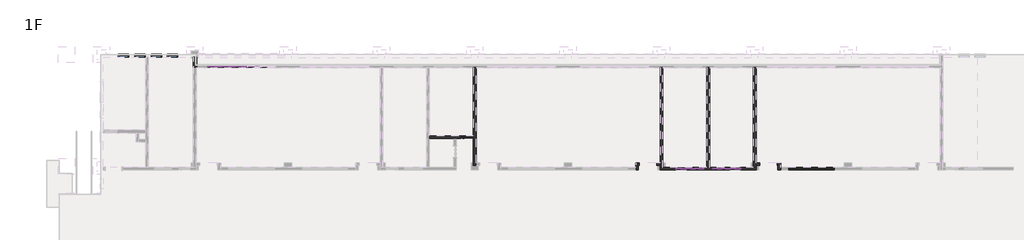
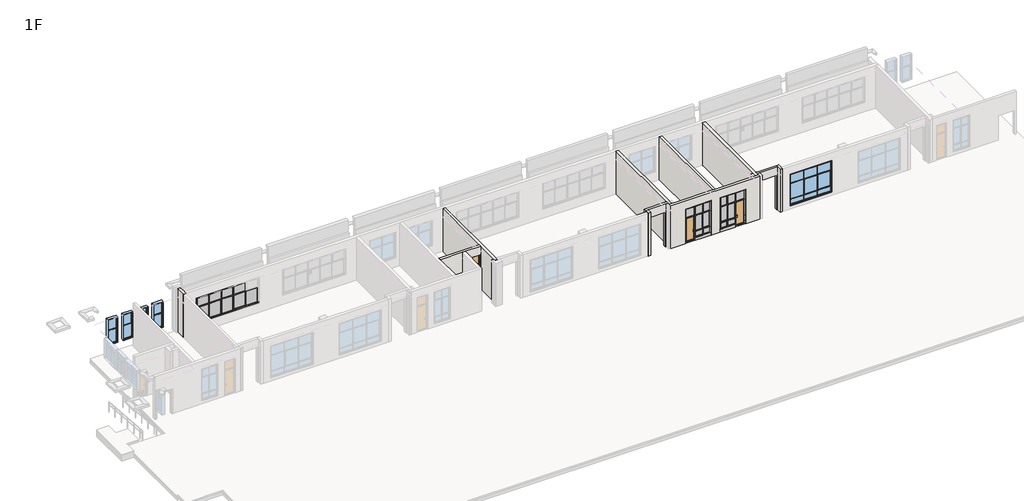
# One storey, part 4 of 16: 67 members, 21 plates, 11 walls, 5 windows, 3 doors.
"""IFC4 building model written with IfcOpenShell, lengths in millimetres."""

from ifc_helpers import new_model, si_unit, origin, origin_with_axes, place, context, project, spatial, polyline, outline, extrude, faceted_brep, transform, mapped, element, save
from components import door_98f1c622, door_980b777d, m2_m2_a1934b10, member_bb6b3e5c, member_d4bc27cc, member_3251d295, member_9c26cac3, member_f9d68b3c, member_c7345f5c, member_ef2f5788, member_68d13e3f, member_a211941a, member_adcc9943, member_f478ca5a, member_964d2677, member_b8dbbb25, member_8a69f4a4, member_c89433b5, member_21953a3b, member_4507a15d, member_fbd0fd80, member_b6ae775c, member_7564be38, member_1f4d75dd, member_0b7842ad, member_163d5e45, member_ffafc35e, member_2b011958, member_6c42befd, member_a374fdad, plate_457c613e, plate_cc9028c0, plate_1c3dccf0, plate_5ac164bc, plate_3a849303, plate_0b4a2fd4, plate_bfe47d88, plate_75e73fbb, plate_f4dba16c, plate_1cc4df2b, plate_4fa5932a, plate_00f9c624, lc1_lc1_5b152119, lc5_lc5_9ec79463

model = new_model("IFC4")

# Units and contexts
model_context = context("Model", 3, world=origin())
ifc_project = project(units=[si_unit("LENGTHUNIT", "METRE", prefix="MILLI")], contexts=[model_context])

# Site, building, storey
site = spatial("IfcSite", under=ifc_project)
building = spatial("IfcBuilding", under=site)
storey = spatial("IfcBuildingStorey", under=building, Name="1F", Elevation=0.0)

# Doors
placement = place(None, origin())
door_shape = door_98f1c622(model_context)
element("IfcDoor", 1, ObjectType="门嵌板_单开门2 : 门嵌板_单开门2", at=placement, inside=storey, context=model_context, shape_type="MappedRepresentation", body=[
    mapped(door_shape, transform((52709.9999953, 23399.6954639, 100.0), x_axis=(-1.0, 0.0, 0.0), y_axis=(0.0, -1.0, 0.0), z_axis=(0.0, 0.0, 1.0))),
])
door_2_shape = door_980b777d(model_context)
element("IfcDoor", 2, ObjectType="门嵌板_单开门2 : 门嵌板_单开门2", at=placement, inside=storey, context=model_context, shape_type="MappedRepresentation", body=[
    mapped(door_2_shape, transform((57309.9999959, 23399.6954639, 100.0), x_axis=(1.0, 0.0, 0.0), y_axis=(0.0, 1.0, 0.0), z_axis=(0.0, 0.0, 1.0))),
])
m2_m2_shape = m2_m2_a1934b10(model_context)
element("IfcDoor", 3, ObjectType="M2 : M2", at=placement, inside=storey, context=model_context, shape_type="MappedRepresentation", body=[
    mapped(m2_m2_shape, transform((34309.9999978, 26099.6954638, 0.0), x_axis=(-1.0, 0.0, 0.0), y_axis=(0.0, -1.0, 0.0), z_axis=(0.0, 0.0, 1.0))),
])

# Members
member_shape = member_bb6b3e5c(model_context)
element("IfcMember", 4, ObjectType="矩形竖梃 : 教学楼 – 矩形竖梃 – 100x150mm", at=placement, inside=storey, context=model_context, shape_type="MappedRepresentation", body=[
    mapped(member_shape, transform((54609.9999957, 23399.6954639, 3400.0), x_axis=(0.0, 0.0, 1.0), y_axis=(0.0, -1.0, 0.0), z_axis=(1.0, 0.0, 0.0))),
])
member_2_shape = member_d4bc27cc(model_context)
element("IfcMember", 5, ObjectType="矩形竖梃 : 教学楼 – 矩形竖梃 – 100x150mm", at=placement, inside=storey, context=model_context, shape_type="MappedRepresentation", body=[
    mapped(member_2_shape, transform((52209.9999953, 23399.6954639, 0.0), x_axis=(0.0, 0.0, -1.0), y_axis=(0.0, -1.0, 0.0), z_axis=(-1.0, 0.0, 0.0))),
])
member_3_shape = member_3251d295(model_context)
element("IfcMember", 6, ObjectType="矩形竖梃 : 教学楼 – 矩形竖梃 – 50x150mm", at=placement, inside=storey, context=model_context, shape_type="MappedRepresentation", body=[
    mapped(member_3_shape, transform((53134.9999953, 23399.6954639, 100.0), x_axis=(1.0, 0.0, 0.0), y_axis=(0.0, -1.0, 0.0), z_axis=(0.0, 0.0, -1.0))),
])
member_4_shape = member_9c26cac3(model_context)
element("IfcMember", 7, ObjectType="矩形竖梃 : 教学楼 – 矩形竖梃 – 50x150mm", at=placement, inside=storey, context=model_context, shape_type="MappedRepresentation", body=[
    mapped(member_4_shape, transform((53134.9999953, 23399.6954639, 2425.0), x_axis=(0.0, 0.0, 1.0), y_axis=(0.0, -1.0, 0.0), z_axis=(1.0, 0.0, 0.0))),
])
member_5_shape = member_f9d68b3c(model_context)
element("IfcMember", 8, ObjectType="矩形竖梃 : 教学楼 – 矩形竖梃 – 50x150mm", at=placement, inside=storey, context=model_context, shape_type="MappedRepresentation", body=[
    mapped(member_5_shape, transform((53884.9999957, 23399.6954639, 2425.0), x_axis=(0.0, 0.0, 1.0), y_axis=(0.0, -1.0, 0.0), z_axis=(1.0, 0.0, 0.0))),
])
member_6_shape = member_c7345f5c(model_context)
element("IfcMember", 9, ObjectType="矩形竖梃 : 教学楼 – 矩形竖梃 – 50x150mm", at=placement, inside=storey, context=model_context, shape_type="MappedRepresentation", body=[
    mapped(member_6_shape, transform((54509.9999957, 23399.6954639, 2425.0), x_axis=(0.0, 0.0, 1.0), y_axis=(0.0, -1.0, 0.0), z_axis=(1.0, 0.0, 0.0))),
])
element("IfcMember", 10, ObjectType="矩形竖梃 : 教学楼 – 矩形竖梃 – 50x150mm", at=placement, inside=storey, context=model_context, shape_type="MappedRepresentation", body=[
    mapped(member_6_shape, transform((54509.9999957, 23399.6954639, 875.0), x_axis=(0.0, 0.0, 1.0), y_axis=(0.0, -1.0, 0.0), z_axis=(1.0, 0.0, 0.0))),
])
element("IfcMember", 11, ObjectType="矩形竖梃 : 教学楼 – 矩形竖梃 – 50x150mm", at=placement, inside=storey, context=model_context, shape_type="MappedRepresentation", body=[
    mapped(member_6_shape, transform((54509.9999957, 23399.6954639, 300.0), x_axis=(0.0, 0.0, 1.0), y_axis=(0.0, -1.0, 0.0), z_axis=(1.0, 0.0, 0.0))),
])
member_7_shape = member_ef2f5788(model_context)
element("IfcMember", 12, ObjectType="矩形竖梃 : 教学楼 – 矩形竖梃 – 50x150mm", at=placement, inside=storey, context=model_context, shape_type="MappedRepresentation", body=[
    mapped(member_7_shape, transform((53884.9999957, 23399.6954639, 875.0), x_axis=(0.0, 0.0, 1.0), y_axis=(0.0, -1.0, 0.0), z_axis=(1.0, 0.0, 0.0))),
])
member_8_shape = member_68d13e3f(model_context)
element("IfcMember", 13, ObjectType="矩形竖梃 : 教学楼 – 矩形竖梃 – 50x150mm", at=placement, inside=storey, context=model_context, shape_type="MappedRepresentation", body=[
    mapped(member_8_shape, transform((53884.9999957, 23399.6954639, 300.0), x_axis=(0.0, 0.0, 1.0), y_axis=(0.0, -1.0, 0.0), z_axis=(1.0, 0.0, 0.0))),
])
member_9_shape = member_a211941a(model_context)
element("IfcMember", 14, ObjectType="矩形竖梃 : 教学楼 – 矩形竖梃 – 100x150mm", at=placement, inside=storey, context=model_context, shape_type="MappedRepresentation", body=[
    mapped(member_9_shape, transform((53134.9999953, 23399.6954639, 3400.0), x_axis=(0.0, 0.0, 1.0), y_axis=(0.0, -1.0, 0.0), z_axis=(1.0, 0.0, 0.0))),
])
member_10_shape = member_adcc9943(model_context)
element("IfcMember", 15, ObjectType="矩形竖梃 : 教学楼 – 矩形竖梃 – 100x150mm", at=placement, inside=storey, context=model_context, shape_type="MappedRepresentation", body=[
    mapped(member_10_shape, transform((53884.9999957, 23399.6954639, 3400.0), x_axis=(0.0, 0.0, 1.0), y_axis=(0.0, -1.0, 0.0), z_axis=(1.0, 0.0, 0.0))),
])
member_11_shape = member_f478ca5a(model_context)
element("IfcMember", 16, ObjectType="矩形竖梃 : 教学楼 – 矩形竖梃 – 50x150mm", at=placement, inside=storey, context=model_context, shape_type="MappedRepresentation", body=[
    mapped(member_11_shape, transform((53134.9999953, 23399.6954639, 2450.0), x_axis=(1.0, 0.0, 0.0), y_axis=(0.0, -1.0, 0.0), z_axis=(0.0, 0.0, -1.0))),
])
element("IfcMember", 17, ObjectType="矩形竖梃 : 教学楼 – 矩形竖梃 – 50x150mm", at=placement, inside=storey, context=model_context, shape_type="MappedRepresentation", body=[
    mapped(member_11_shape, transform((53884.9999957, 23399.6954639, 2450.0), x_axis=(1.0, 0.0, 0.0), y_axis=(0.0, -1.0, 0.0), z_axis=(0.0, 0.0, -1.0))),
])
member_12_shape = member_964d2677(model_context)
element("IfcMember", 18, ObjectType="矩形竖梃 : 教学楼 – 矩形竖梃 – 50x150mm", at=placement, inside=storey, context=model_context, shape_type="MappedRepresentation", body=[
    mapped(member_12_shape, transform((53134.9999953, 23399.6954639, 900.0), x_axis=(1.0, 0.0, 0.0), y_axis=(0.0, -1.0, 0.0), z_axis=(0.0, 0.0, -1.0))),
])
member_13_shape = member_b8dbbb25(model_context)
element("IfcMember", 19, ObjectType="矩形竖梃 : 教学楼 – 矩形竖梃 – 50x150mm", at=placement, inside=storey, context=model_context, shape_type="MappedRepresentation", body=[
    mapped(member_13_shape, transform((53134.9999953, 23399.6954639, 300.0), x_axis=(1.0, 0.0, 0.0), y_axis=(0.0, -1.0, 0.0), z_axis=(0.0, 0.0, -1.0))),
])
member_14_shape = member_8a69f4a4(model_context)
element("IfcMember", 20, ObjectType="矩形竖梃 : 教学楼 – 矩形竖梃 – 50x150mm", at=placement, inside=storey, context=model_context, shape_type="MappedRepresentation", body=[
    mapped(member_14_shape, transform((53884.9999957, 23399.6954639, 325.0), x_axis=(1.0, 0.0, 0.0), y_axis=(0.0, -1.0, 0.0), z_axis=(0.0, 0.0, -1.0))),
])
member_15_shape = member_c89433b5(model_context)
element("IfcMember", 21, ObjectType="矩形竖梃 : 教学楼 – 矩形竖梃 – 100x150mm", at=placement, inside=storey, context=model_context, shape_type="MappedRepresentation", body=[
    mapped(member_15_shape, transform((52209.9999953, 23399.6954639, 3300.0), x_axis=(-1.0, 0.0, 0.0), y_axis=(0.0, -1.0, 0.0), z_axis=(0.0, 0.0, 1.0))),
])
element("IfcMember", 22, ObjectType="矩形竖梃 : 教学楼 – 矩形竖梃 – 100x150mm", at=placement, inside=storey, context=model_context, shape_type="MappedRepresentation", body=[
    mapped(member_15_shape, transform((54609.9999957, 23399.6954639, 2425.0), x_axis=(1.0, 0.0, 0.0), y_axis=(0.0, -1.0, 0.0), z_axis=(0.0, 0.0, -1.0))),
])
member_16_shape = member_21953a3b(model_context)
element("IfcMember", 23, ObjectType="矩形竖梃 : 教学楼 – 矩形竖梃 – 100x150mm", at=placement, inside=storey, context=model_context, shape_type="MappedRepresentation", body=[
    mapped(member_16_shape, transform((54609.9999957, 23399.6954639, 875.0), x_axis=(1.0, 0.0, 0.0), y_axis=(0.0, -1.0, 0.0), z_axis=(0.0, 0.0, -1.0))),
])
member_17_shape = member_4507a15d(model_context)
element("IfcMember", 24, ObjectType="矩形竖梃 : 教学楼 – 矩形竖梃 – 100x150mm", at=placement, inside=storey, context=model_context, shape_type="MappedRepresentation", body=[
    mapped(member_17_shape, transform((54609.9999957, 23399.6954639, 275.0), x_axis=(1.0, 0.0, 0.0), y_axis=(0.0, -1.0, 0.0), z_axis=(0.0, 0.0, -1.0))),
])
element("IfcMember", 25, ObjectType="矩形竖梃 : 教学楼 – 矩形竖梃 – 100x150mm", at=placement, inside=storey, context=model_context, shape_type="MappedRepresentation", body=[
    mapped(member_16_shape, transform((52209.9999953, 23399.6954639, 2425.0), x_axis=(-1.0, 0.0, 0.0), y_axis=(0.0, -1.0, 0.0), z_axis=(0.0, 0.0, 1.0))),
])
member_18_shape = member_fbd0fd80(model_context)
element("IfcMember", 26, ObjectType="矩形竖梃 : 教学楼 – 矩形竖梃 – 100x150mm", at=placement, inside=storey, context=model_context, shape_type="MappedRepresentation", body=[
    mapped(member_18_shape, transform((52209.9999953, 23399.6954639, 875.0), x_axis=(-1.0, 0.0, 0.0), y_axis=(0.0, -1.0, 0.0), z_axis=(0.0, 0.0, 1.0))),
])
member_19_shape = member_b6ae775c(model_context)
element("IfcMember", 27, ObjectType="矩形竖梃 : 教学楼 – 矩形竖梃 – 100x150mm", at=placement, inside=storey, context=model_context, shape_type="MappedRepresentation", body=[
    mapped(member_19_shape, transform((52209.9999953, 23399.6954639, 300.0), x_axis=(-1.0, 0.0, 0.0), y_axis=(0.0, -1.0, 0.0), z_axis=(0.0, 0.0, 1.0))),
])
element("IfcMember", 28, ObjectType="矩形竖梃 : 教学楼 – 矩形竖梃 – 100x150mm", at=placement, inside=storey, context=model_context, shape_type="MappedRepresentation", body=[
    mapped(member_shape, transform((55409.9999955, 23399.6954639, 3400.0), x_axis=(0.0, 0.0, 1.0), y_axis=(0.0, 1.0, 0.0), z_axis=(-1.0, 0.0, 0.0))),
])
element("IfcMember", 29, ObjectType="矩形竖梃 : 教学楼 – 矩形竖梃 – 100x150mm", at=placement, inside=storey, context=model_context, shape_type="MappedRepresentation", body=[
    mapped(member_2_shape, transform((57809.9999959, 23399.6954639, 0.0), x_axis=(0.0, 0.0, -1.0), y_axis=(0.0, 1.0, 0.0), z_axis=(1.0, 0.0, 0.0))),
])
element("IfcMember", 30, ObjectType="矩形竖梃 : 教学楼 – 矩形竖梃 – 50x150mm", at=placement, inside=storey, context=model_context, shape_type="MappedRepresentation", body=[
    mapped(member_3_shape, transform((56884.9999959, 23399.6954639, 100.0), x_axis=(-1.0, 0.0, 0.0), y_axis=(0.0, 1.0, 0.0), z_axis=(0.0, 0.0, -1.0))),
])
element("IfcMember", 31, ObjectType="矩形竖梃 : 教学楼 – 矩形竖梃 – 50x150mm", at=placement, inside=storey, context=model_context, shape_type="MappedRepresentation", body=[
    mapped(member_4_shape, transform((56884.9999959, 23399.6954639, 2425.0), x_axis=(0.0, 0.0, 1.0), y_axis=(0.0, 1.0, 0.0), z_axis=(-1.0, 0.0, 0.0))),
])
element("IfcMember", 32, ObjectType="矩形竖梃 : 教学楼 – 矩形竖梃 – 50x150mm", at=placement, inside=storey, context=model_context, shape_type="MappedRepresentation", body=[
    mapped(member_5_shape, transform((56134.9999955, 23399.6954639, 2425.0), x_axis=(0.0, 0.0, 1.0), y_axis=(0.0, 1.0, 0.0), z_axis=(-1.0, 0.0, 0.0))),
])
element("IfcMember", 33, ObjectType="矩形竖梃 : 教学楼 – 矩形竖梃 – 50x150mm", at=placement, inside=storey, context=model_context, shape_type="MappedRepresentation", body=[
    mapped(member_6_shape, transform((55509.9999955, 23399.6954639, 2425.0), x_axis=(0.0, 0.0, 1.0), y_axis=(0.0, 1.0, 0.0), z_axis=(-1.0, 0.0, 0.0))),
])
element("IfcMember", 34, ObjectType="矩形竖梃 : 教学楼 – 矩形竖梃 – 50x150mm", at=placement, inside=storey, context=model_context, shape_type="MappedRepresentation", body=[
    mapped(member_6_shape, transform((55509.9999955, 23399.6954639, 875.0), x_axis=(0.0, 0.0, 1.0), y_axis=(0.0, 1.0, 0.0), z_axis=(-1.0, 0.0, 0.0))),
])
element("IfcMember", 35, ObjectType="矩形竖梃 : 教学楼 – 矩形竖梃 – 50x150mm", at=placement, inside=storey, context=model_context, shape_type="MappedRepresentation", body=[
    mapped(member_6_shape, transform((55509.9999955, 23399.6954639, 300.0), x_axis=(0.0, 0.0, 1.0), y_axis=(0.0, 1.0, 0.0), z_axis=(-1.0, 0.0, 0.0))),
])
element("IfcMember", 36, ObjectType="矩形竖梃 : 教学楼 – 矩形竖梃 – 50x150mm", at=placement, inside=storey, context=model_context, shape_type="MappedRepresentation", body=[
    mapped(member_7_shape, transform((56134.9999955, 23399.6954639, 875.0), x_axis=(0.0, 0.0, 1.0), y_axis=(0.0, 1.0, 0.0), z_axis=(-1.0, 0.0, 0.0))),
])
element("IfcMember", 37, ObjectType="矩形竖梃 : 教学楼 – 矩形竖梃 – 50x150mm", at=placement, inside=storey, context=model_context, shape_type="MappedRepresentation", body=[
    mapped(member_8_shape, transform((56134.9999955, 23399.6954639, 300.0), x_axis=(0.0, 0.0, 1.0), y_axis=(0.0, 1.0, 0.0), z_axis=(-1.0, 0.0, 0.0))),
])
element("IfcMember", 38, ObjectType="矩形竖梃 : 教学楼 – 矩形竖梃 – 100x150mm", at=placement, inside=storey, context=model_context, shape_type="MappedRepresentation", body=[
    mapped(member_9_shape, transform((56884.9999959, 23399.6954639, 3400.0), x_axis=(0.0, 0.0, 1.0), y_axis=(0.0, 1.0, 0.0), z_axis=(-1.0, 0.0, 0.0))),
])
element("IfcMember", 39, ObjectType="矩形竖梃 : 教学楼 – 矩形竖梃 – 100x150mm", at=placement, inside=storey, context=model_context, shape_type="MappedRepresentation", body=[
    mapped(member_10_shape, transform((56134.9999955, 23399.6954639, 3400.0), x_axis=(0.0, 0.0, 1.0), y_axis=(0.0, 1.0, 0.0), z_axis=(-1.0, 0.0, 0.0))),
])
element("IfcMember", 40, ObjectType="矩形竖梃 : 教学楼 – 矩形竖梃 – 50x150mm", at=placement, inside=storey, context=model_context, shape_type="MappedRepresentation", body=[
    mapped(member_11_shape, transform((56884.9999959, 23399.6954639, 2450.0), x_axis=(-1.0, 0.0, 0.0), y_axis=(0.0, 1.0, 0.0), z_axis=(0.0, 0.0, -1.0))),
])
element("IfcMember", 41, ObjectType="矩形竖梃 : 教学楼 – 矩形竖梃 – 50x150mm", at=placement, inside=storey, context=model_context, shape_type="MappedRepresentation", body=[
    mapped(member_11_shape, transform((56134.9999955, 23399.6954639, 2450.0), x_axis=(-1.0, 0.0, 0.0), y_axis=(0.0, 1.0, 0.0), z_axis=(0.0, 0.0, -1.0))),
])
element("IfcMember", 42, ObjectType="矩形竖梃 : 教学楼 – 矩形竖梃 – 50x150mm", at=placement, inside=storey, context=model_context, shape_type="MappedRepresentation", body=[
    mapped(member_12_shape, transform((56884.9999959, 23399.6954639, 900.0), x_axis=(-1.0, 0.0, 0.0), y_axis=(0.0, 1.0, 0.0), z_axis=(0.0, 0.0, -1.0))),
])
element("IfcMember", 43, ObjectType="矩形竖梃 : 教学楼 – 矩形竖梃 – 50x150mm", at=placement, inside=storey, context=model_context, shape_type="MappedRepresentation", body=[
    mapped(member_13_shape, transform((56884.9999959, 23399.6954639, 300.0), x_axis=(-1.0, 0.0, 0.0), y_axis=(0.0, 1.0, 0.0), z_axis=(0.0, 0.0, -1.0))),
])
element("IfcMember", 44, ObjectType="矩形竖梃 : 教学楼 – 矩形竖梃 – 50x150mm", at=placement, inside=storey, context=model_context, shape_type="MappedRepresentation", body=[
    mapped(member_14_shape, transform((56134.9999955, 23399.6954639, 325.0), x_axis=(-1.0, 0.0, 0.0), y_axis=(0.0, 1.0, 0.0), z_axis=(0.0, 0.0, -1.0))),
])
element("IfcMember", 45, ObjectType="矩形竖梃 : 教学楼 – 矩形竖梃 – 100x150mm", at=placement, inside=storey, context=model_context, shape_type="MappedRepresentation", body=[
    mapped(member_15_shape, transform((57809.9999959, 23399.6954639, 3300.0), x_axis=(1.0, 0.0, 0.0), y_axis=(0.0, 1.0, 0.0), z_axis=(0.0, 0.0, 1.0))),
])
element("IfcMember", 46, ObjectType="矩形竖梃 : 教学楼 – 矩形竖梃 – 100x150mm", at=placement, inside=storey, context=model_context, shape_type="MappedRepresentation", body=[
    mapped(member_15_shape, transform((55409.9999955, 23399.6954639, 2425.0), x_axis=(-1.0, 0.0, 0.0), y_axis=(0.0, 1.0, 0.0), z_axis=(0.0, 0.0, -1.0))),
])
element("IfcMember", 47, ObjectType="矩形竖梃 : 教学楼 – 矩形竖梃 – 100x150mm", at=placement, inside=storey, context=model_context, shape_type="MappedRepresentation", body=[
    mapped(member_16_shape, transform((55409.9999955, 23399.6954639, 875.0), x_axis=(-1.0, 0.0, 0.0), y_axis=(0.0, 1.0, 0.0), z_axis=(0.0, 0.0, -1.0))),
])
element("IfcMember", 48, ObjectType="矩形竖梃 : 教学楼 – 矩形竖梃 – 100x150mm", at=placement, inside=storey, context=model_context, shape_type="MappedRepresentation", body=[
    mapped(member_17_shape, transform((55409.9999955, 23399.6954639, 275.0), x_axis=(-1.0, 0.0, 0.0), y_axis=(0.0, 1.0, 0.0), z_axis=(0.0, 0.0, -1.0))),
])
element("IfcMember", 49, ObjectType="矩形竖梃 : 教学楼 – 矩形竖梃 – 100x150mm", at=placement, inside=storey, context=model_context, shape_type="MappedRepresentation", body=[
    mapped(member_16_shape, transform((57809.9999959, 23399.6954639, 2425.0), x_axis=(1.0, 0.0, 0.0), y_axis=(0.0, 1.0, 0.0), z_axis=(0.0, 0.0, 1.0))),
])
element("IfcMember", 50, ObjectType="矩形竖梃 : 教学楼 – 矩形竖梃 – 100x150mm", at=placement, inside=storey, context=model_context, shape_type="MappedRepresentation", body=[
    mapped(member_18_shape, transform((57809.9999959, 23399.6954639, 875.0), x_axis=(1.0, 0.0, 0.0), y_axis=(0.0, 1.0, 0.0), z_axis=(0.0, 0.0, 1.0))),
])
element("IfcMember", 51, ObjectType="矩形竖梃 : 教学楼 – 矩形竖梃 – 100x150mm", at=placement, inside=storey, context=model_context, shape_type="MappedRepresentation", body=[
    mapped(member_19_shape, transform((57809.9999959, 23399.6954639, 300.0), x_axis=(1.0, 0.0, 0.0), y_axis=(0.0, 1.0, 0.0), z_axis=(0.0, 0.0, 1.0))),
])
member_20_shape = member_7564be38(model_context)
element("IfcMember", 52, ObjectType="矩形竖梃 : 教学楼 – 矩形竖梃 – 100x150mm", at=placement, inside=storey, context=model_context, shape_type="MappedRepresentation", body=[
    mapped(member_20_shape, transform((12100.0000002, 32200.0, 900.0), x_axis=(0.0, 0.0, -1.0), y_axis=(0.0, -1.0, 0.0), z_axis=(-1.0, 0.0, 0.0))),
])
member_21_shape = member_1f4d75dd(model_context)
element("IfcMember", 53, ObjectType="矩形竖梃 : 教学楼 – 矩形竖梃 – 50x150mm", at=placement, inside=storey, context=model_context, shape_type="MappedRepresentation", body=[
    mapped(member_21_shape, transform((14450.0000002, 32200.0, 1000.0), x_axis=(1.0, 0.0, 0.0), y_axis=(0.0, -1.0, 0.0), z_axis=(0.0, 0.0, -1.0))),
])
element("IfcMember", 54, ObjectType="矩形竖梃 : 教学楼 – 矩形竖梃 – 50x150mm", at=placement, inside=storey, context=model_context, shape_type="MappedRepresentation", body=[
    mapped(member_21_shape, transform((15550.0000002, 32200.0, 1000.0), x_axis=(1.0, 0.0, 0.0), y_axis=(0.0, -1.0, 0.0), z_axis=(0.0, 0.0, -1.0))),
])
member_22_shape = member_0b7842ad(model_context)
element("IfcMember", 55, ObjectType="矩形竖梃 : 教学楼 – 矩形竖梃 – 50x150mm", at=placement, inside=storey, context=model_context, shape_type="MappedRepresentation", body=[
    mapped(member_22_shape, transform((13300.0000002, 32200.0, 2450.0), x_axis=(0.0, 0.0, 1.0), y_axis=(0.0, -1.0, 0.0), z_axis=(1.0, 0.0, 0.0))),
])
member_23_shape = member_163d5e45(model_context)
element("IfcMember", 56, ObjectType="矩形竖梃 : 教学楼 – 矩形竖梃 – 50x150mm", at=placement, inside=storey, context=model_context, shape_type="MappedRepresentation", body=[
    mapped(member_23_shape, transform((14450.0000002, 32200.0, 2450.0), x_axis=(0.0, 0.0, 1.0), y_axis=(0.0, -1.0, 0.0), z_axis=(1.0, 0.0, 0.0))),
])
element("IfcMember", 57, ObjectType="矩形竖梃 : 教学楼 – 矩形竖梃 – 50x150mm", at=placement, inside=storey, context=model_context, shape_type="MappedRepresentation", body=[
    mapped(member_23_shape, transform((16700.0000002, 32200.0, 2450.0), x_axis=(0.0, 0.0, 1.0), y_axis=(0.0, -1.0, 0.0), z_axis=(1.0, 0.0, 0.0))),
])
element("IfcMember", 58, ObjectType="矩形竖梃 : 教学楼 – 矩形竖梃 – 50x150mm", at=placement, inside=storey, context=model_context, shape_type="MappedRepresentation", body=[
    mapped(member_22_shape, transform((15550.0000002, 32200.0, 2450.0), x_axis=(0.0, 0.0, 1.0), y_axis=(0.0, -1.0, 0.0), z_axis=(1.0, 0.0, 0.0))),
])
member_24_shape = member_ffafc35e(model_context)
element("IfcMember", 59, ObjectType="矩形竖梃 : 教学楼 – 矩形竖梃 – 100x150mm", at=placement, inside=storey, context=model_context, shape_type="MappedRepresentation", body=[
    mapped(member_24_shape, transform((13300.0000002, 32200.0, 900.0), x_axis=(0.0, 0.0, -1.0), y_axis=(0.0, -1.0, 0.0), z_axis=(-1.0, 0.0, 0.0))),
])
member_25_shape = member_2b011958(model_context)
element("IfcMember", 60, ObjectType="矩形竖梃 : 教学楼 – 矩形竖梃 – 100x150mm", at=placement, inside=storey, context=model_context, shape_type="MappedRepresentation", body=[
    mapped(member_25_shape, transform((14450.0000002, 32200.0, 900.0), x_axis=(0.0, 0.0, -1.0), y_axis=(0.0, -1.0, 0.0), z_axis=(-1.0, 0.0, 0.0))),
])
element("IfcMember", 61, ObjectType="矩形竖梃 : 教学楼 – 矩形竖梃 – 100x150mm", at=placement, inside=storey, context=model_context, shape_type="MappedRepresentation", body=[
    mapped(member_24_shape, transform((15550.0000002, 32200.0, 900.0), x_axis=(0.0, 0.0, -1.0), y_axis=(0.0, -1.0, 0.0), z_axis=(-1.0, 0.0, 0.0))),
])
element("IfcMember", 62, ObjectType="矩形竖梃 : 教学楼 – 矩形竖梃 – 100x150mm", at=placement, inside=storey, context=model_context, shape_type="MappedRepresentation", body=[
    mapped(member_20_shape, transform((16700.0000002, 32200.0, 900.0), x_axis=(0.0, 0.0, -1.0), y_axis=(0.0, -1.0, 0.0), z_axis=(-1.0, 0.0, 0.0))),
])
element("IfcMember", 63, ObjectType="矩形竖梃 : 教学楼 – 矩形竖梃 – 100x150mm", at=placement, inside=storey, context=model_context, shape_type="MappedRepresentation", body=[
    mapped(member_20_shape, transform((13300.0000002, 32200.0, 3400.0), x_axis=(0.0, 0.0, 1.0), y_axis=(0.0, -1.0, 0.0), z_axis=(1.0, 0.0, 0.0))),
])
element("IfcMember", 64, ObjectType="矩形竖梃 : 教学楼 – 矩形竖梃 – 100x150mm", at=placement, inside=storey, context=model_context, shape_type="MappedRepresentation", body=[
    mapped(member_24_shape, transform((14450.0000002, 32200.0, 3400.0), x_axis=(0.0, 0.0, 1.0), y_axis=(0.0, -1.0, 0.0), z_axis=(1.0, 0.0, 0.0))),
])
element("IfcMember", 65, ObjectType="矩形竖梃 : 教学楼 – 矩形竖梃 – 100x150mm", at=placement, inside=storey, context=model_context, shape_type="MappedRepresentation", body=[
    mapped(member_25_shape, transform((15550.0000002, 32200.0, 3400.0), x_axis=(0.0, 0.0, 1.0), y_axis=(0.0, -1.0, 0.0), z_axis=(1.0, 0.0, 0.0))),
])
element("IfcMember", 66, ObjectType="矩形竖梃 : 教学楼 – 矩形竖梃 – 50x150mm", at=placement, inside=storey, context=model_context, shape_type="MappedRepresentation", body=[
    mapped(member_4_shape, transform((13300.0000002, 32200.0, 2475.0), x_axis=(1.0, 0.0, 0.0), y_axis=(0.0, -1.0, 0.0), z_axis=(0.0, 0.0, -1.0))),
])
element("IfcMember", 67, ObjectType="矩形竖梃 : 教学楼 – 矩形竖梃 – 50x150mm", at=placement, inside=storey, context=model_context, shape_type="MappedRepresentation", body=[
    mapped(member_4_shape, transform((14450.0000002, 32200.0, 2475.0), x_axis=(1.0, 0.0, 0.0), y_axis=(0.0, -1.0, 0.0), z_axis=(0.0, 0.0, -1.0))),
])
element("IfcMember", 68, ObjectType="矩形竖梃 : 教学楼 – 矩形竖梃 – 50x150mm", at=placement, inside=storey, context=model_context, shape_type="MappedRepresentation", body=[
    mapped(member_4_shape, transform((15550.0000002, 32200.0, 2475.0), x_axis=(1.0, 0.0, 0.0), y_axis=(0.0, -1.0, 0.0), z_axis=(0.0, 0.0, -1.0))),
])
member_26_shape = member_6c42befd(model_context)
element("IfcMember", 69, ObjectType="矩形竖梃 : 教学楼 – 矩形竖梃 – 100x150mm", at=placement, inside=storey, context=model_context, shape_type="MappedRepresentation", body=[
    mapped(member_26_shape, transform((12100.0000002, 32200.0, 3300.0), x_axis=(-1.0, 0.0, 0.0), y_axis=(0.0, -1.0, 0.0), z_axis=(0.0, 0.0, 1.0))),
])
member_27_shape = member_a374fdad(model_context)
element("IfcMember", 70, ObjectType="矩形竖梃 : 教学楼 – 矩形竖梃 – 100x150mm", at=placement, inside=storey, context=model_context, shape_type="MappedRepresentation", body=[
    mapped(member_27_shape, transform((12100.0000002, 32200.0, 2450.0), x_axis=(-1.0, 0.0, 0.0), y_axis=(0.0, -1.0, 0.0), z_axis=(0.0, 0.0, 1.0))),
])

# Plates
element("IfcPlate", 71, ObjectType="教学楼 – 涂料内墙 – 200mm", at=placement, inside=storey, context=model_context, shape_type="SweptSolid", body=[
    extrude(outline(polyline([(54609.9999957, 23282.6954639), (53159.9999953, 23282.6954639), (53159.9999953, 23516.6954639), (54609.9999957, 23516.6954639), (54609.9999957, 23282.6954639)])), origin_with_axes(), (0.0, 0.0, 1.0), 275.0),
])
element("IfcPlate", 72, ObjectType="教学楼 – 涂料内墙 – 200mm", at=placement, inside=storey, context=model_context, shape_type="SweptSolid", body=[
    extrude(outline(polyline([(55409.9999955, 23516.6954639), (56859.9999959, 23516.6954639), (56859.9999959, 23282.6954639), (55409.9999955, 23282.6954639), (55409.9999955, 23516.6954639)])), origin_with_axes(), (0.0, 0.0, 1.0), 275.0),
])
plate_shape = plate_457c613e(model_context)
element("IfcPlate", 73, ObjectType="系统嵌板 : 玻璃", at=placement, inside=storey, context=model_context, shape_type="MappedRepresentation", body=[
    mapped(plate_shape, transform((52709.9999953, 23399.6954639, 2450.0), x_axis=(1.0, 0.0, 0.0), y_axis=(0.0, 1.0, 0.0), z_axis=(0.0, 0.0, 1.0))),
])
plate_2_shape = plate_cc9028c0(model_context)
element("IfcPlate", 74, ObjectType="系统嵌板 : 玻璃", at=placement, inside=storey, context=model_context, shape_type="MappedRepresentation", body=[
    mapped(plate_2_shape, transform((53509.9999955, 23399.6954639, 2450.0), x_axis=(1.0, 0.0, 0.0), y_axis=(0.0, 1.0, 0.0), z_axis=(0.0, 0.0, 1.0))),
])
plate_3_shape = plate_1c3dccf0(model_context)
element("IfcPlate", 75, ObjectType="系统嵌板 : 玻璃", at=placement, inside=storey, context=model_context, shape_type="MappedRepresentation", body=[
    mapped(plate_3_shape, transform((54209.9999957, 23399.6954639, 2450.0), x_axis=(1.0, 0.0, 0.0), y_axis=(0.0, 1.0, 0.0), z_axis=(0.0, 0.0, 1.0))),
])
plate_4_shape = plate_5ac164bc(model_context)
element("IfcPlate", 76, ObjectType="教学楼 - 窗嵌板：双扇推拉窗 : 教学楼 - 窗嵌板：双扇推拉窗", at=placement, inside=storey, context=model_context, shape_type="MappedRepresentation", body=[
    mapped(plate_4_shape, transform((53834.9999955, 23399.6954639, 900.0), x_axis=(1.0, 0.0, 0.0), y_axis=(0.0, 1.0, 0.0), z_axis=(0.0, 0.0, 1.0))),
])
plate_5_shape = plate_3a849303(model_context)
element("IfcPlate", 77, ObjectType="系统嵌板 : 玻璃", at=placement, inside=storey, context=model_context, shape_type="MappedRepresentation", body=[
    mapped(plate_5_shape, transform((53509.9999955, 23399.6954639, 325.0), x_axis=(1.0, 0.0, 0.0), y_axis=(0.0, 1.0, 0.0), z_axis=(0.0, 0.0, 1.0))),
])
plate_6_shape = plate_0b4a2fd4(model_context)
element("IfcPlate", 78, ObjectType="系统嵌板 : 玻璃", at=placement, inside=storey, context=model_context, shape_type="MappedRepresentation", body=[
    mapped(plate_6_shape, transform((54209.9999957, 23399.6954639, 325.0), x_axis=(1.0, 0.0, 0.0), y_axis=(0.0, 1.0, 0.0), z_axis=(0.0, 0.0, 1.0))),
])
element("IfcPlate", 79, ObjectType="系统嵌板 : 玻璃", at=placement, inside=storey, context=model_context, shape_type="MappedRepresentation", body=[
    mapped(plate_shape, transform((57309.9999959, 23399.6954639, 2450.0), x_axis=(-1.0, 0.0, 0.0), y_axis=(0.0, -1.0, 0.0), z_axis=(0.0, 0.0, 1.0))),
])
element("IfcPlate", 80, ObjectType="系统嵌板 : 玻璃", at=placement, inside=storey, context=model_context, shape_type="MappedRepresentation", body=[
    mapped(plate_2_shape, transform((56509.9999957, 23399.6954639, 2450.0), x_axis=(-1.0, 0.0, 0.0), y_axis=(0.0, -1.0, 0.0), z_axis=(0.0, 0.0, 1.0))),
])
element("IfcPlate", 81, ObjectType="系统嵌板 : 玻璃", at=placement, inside=storey, context=model_context, shape_type="MappedRepresentation", body=[
    mapped(plate_3_shape, transform((55809.9999955, 23399.6954639, 2450.0), x_axis=(-1.0, 0.0, 0.0), y_axis=(0.0, -1.0, 0.0), z_axis=(0.0, 0.0, 1.0))),
])
plate_7_shape = plate_bfe47d88(model_context)
element("IfcPlate", 82, ObjectType="教学楼 - 窗嵌板：双扇推拉窗 : 教学楼 - 窗嵌板：双扇推拉窗", at=placement, inside=storey, context=model_context, shape_type="MappedRepresentation", body=[
    mapped(plate_7_shape, transform((56184.9999957, 23399.6954639, 900.0), x_axis=(-1.0, 0.0, 0.0), y_axis=(0.0, -1.0, 0.0), z_axis=(0.0, 0.0, 1.0))),
])
element("IfcPlate", 83, ObjectType="系统嵌板 : 玻璃", at=placement, inside=storey, context=model_context, shape_type="MappedRepresentation", body=[
    mapped(plate_5_shape, transform((56509.9999957, 23399.6954639, 325.0), x_axis=(-1.0, 0.0, 0.0), y_axis=(0.0, -1.0, 0.0), z_axis=(0.0, 0.0, 1.0))),
])
element("IfcPlate", 84, ObjectType="系统嵌板 : 玻璃", at=placement, inside=storey, context=model_context, shape_type="MappedRepresentation", body=[
    mapped(plate_6_shape, transform((55809.9999955, 23399.6954639, 325.0), x_axis=(-1.0, 0.0, 0.0), y_axis=(0.0, -1.0, 0.0), z_axis=(0.0, 0.0, 1.0))),
])
plate_8_shape = plate_75e73fbb(model_context)
element("IfcPlate", 85, ObjectType="教学楼 - 窗嵌板：双扇推拉窗 : 教学楼 - 窗嵌板：双扇推拉窗", at=placement, inside=storey, context=model_context, shape_type="MappedRepresentation", body=[
    mapped(plate_8_shape, transform((13312.5000002, 32200.0, 1000.0), x_axis=(1.0, 0.0, 0.0), y_axis=(0.0, 1.0, 0.0), z_axis=(0.0, 0.0, 1.0))),
])
plate_9_shape = plate_f4dba16c(model_context)
element("IfcPlate", 86, ObjectType="系统嵌板 : 玻璃", at=placement, inside=storey, context=model_context, shape_type="MappedRepresentation", body=[
    mapped(plate_9_shape, transform((15000.0000002, 32200.0, 1000.0), x_axis=(1.0, 0.0, 0.0), y_axis=(0.0, 1.0, 0.0), z_axis=(0.0, 0.0, 1.0))),
])
element("IfcPlate", 87, ObjectType="教学楼 - 窗嵌板：双扇推拉窗 : 教学楼 - 窗嵌板：双扇推拉窗", at=placement, inside=storey, context=model_context, shape_type="MappedRepresentation", body=[
    mapped(plate_8_shape, transform((16687.5000002, 32200.0, 1000.0), x_axis=(1.0, 0.0, 0.0), y_axis=(0.0, 1.0, 0.0), z_axis=(0.0, 0.0, 1.0))),
])
plate_10_shape = plate_1cc4df2b(model_context)
element("IfcPlate", 88, ObjectType="系统嵌板 : 玻璃", at=placement, inside=storey, context=model_context, shape_type="MappedRepresentation", body=[
    mapped(plate_10_shape, transform((12737.5000002, 32200.0, 2475.0), x_axis=(1.0, 0.0, 0.0), y_axis=(0.0, 1.0, 0.0), z_axis=(0.0, 0.0, 1.0))),
])
plate_11_shape = plate_4fa5932a(model_context)
element("IfcPlate", 89, ObjectType="系统嵌板 : 玻璃", at=placement, inside=storey, context=model_context, shape_type="MappedRepresentation", body=[
    mapped(plate_11_shape, transform((13875.0000002, 32200.0, 2475.0), x_axis=(1.0, 0.0, 0.0), y_axis=(0.0, 1.0, 0.0), z_axis=(0.0, 0.0, 1.0))),
])
element("IfcPlate", 90, ObjectType="系统嵌板 : 玻璃", at=placement, inside=storey, context=model_context, shape_type="MappedRepresentation", body=[
    mapped(plate_11_shape, transform((16125.0000002, 32200.0, 2475.0), x_axis=(1.0, 0.0, 0.0), y_axis=(0.0, 1.0, 0.0), z_axis=(0.0, 0.0, 1.0))),
])
plate_12_shape = plate_00f9c624(model_context)
element("IfcPlate", 91, ObjectType="系统嵌板 : 玻璃", at=placement, inside=storey, context=model_context, shape_type="MappedRepresentation", body=[
    mapped(plate_12_shape, transform((15000.0000002, 32200.0, 2475.0), x_axis=(1.0, 0.0, 0.0), y_axis=(0.0, 1.0, 0.0), z_axis=(0.0, 0.0, 1.0))),
])

# Walls
element("IfcWall", 92, ObjectType="教学楼 – 文化石外墙 – 200mm", at=placement, inside=storey, context=model_context, shape_type="Brep", body=[
    faceted_brep([(10883.0, 32982.6954639, 0.0), (10883.0, 32900.0, 0.0), (10883.0, 32065.0, 0.0), (10883.0, 32065.0, 4200.0), (10883.0, 32900.0, 4200.0), (10883.0, 32982.6954639, 4200.0), (11153.0, 32982.6954639, 0.0), (11153.0, 32982.6954639, 4200.0), (11153.0, 32900.0, 4200.0), (11153.0, 32335.0, 4200.0), (11153.0, 32065.0, 4200.0), (11153.0, 32065.0, 0.0), (11153.0, 32335.0, 0.0), (11153.0, 32900.0, 0.0), (11117.0, 32065.0, 0.0), (11117.0, 32065.0, 4200.0)], [[[0, 1, 2, 3, 4, 5]], [[6, 7, 8, 9, 10, 11, 12, 13]], [[2, 1, 0, 6, 13, 12, 11, 14]], [[5, 4, 3, 15, 10, 9, 8, 7]], [[0, 5, 7, 6]], [[3, 2, 14, 11, 10, 15]]]),
])
element("IfcWall", 93, ObjectType="教学楼 – 涂料内墙 – 200mm", at=placement, inside=storey, context=model_context, shape_type="Brep", body=[
    faceted_brep([(34883.0, 32065.0, 0.0), (34883.0, 26216.6954638, 0.0), (34883.0, 25982.6954638, 0.0), (34883.0, 23917.0, 0.0), (34883.0, 23682.7231012, 0.0), (34883.0, 23682.7231012, 4200.0), (34883.0, 23917.0, 4200.0), (34883.0, 25982.6954638, 4200.0), (34883.0, 26216.6954638, 4200.0), (34883.0, 32065.0, 4200.0), (35117.0, 32065.0, 0.0), (35117.0, 32065.0, 4200.0), (35117.0, 23917.0, 4200.0), (35117.0, 23916.7231012, 4200.0), (35117.0, 23682.7231012, 4200.0), (35117.0, 23682.7231012, 0.0), (35117.0, 23916.7231012, 0.0), (35117.0, 23917.0, 0.0)], [[[0, 1, 2, 3, 4, 5, 6, 7, 8, 9]], [[10, 11, 12, 13, 14, 15, 16, 17]], [[4, 3, 2, 1, 0, 10, 17, 16, 15]], [[9, 8, 7, 6, 5, 14, 13, 12, 11]], [[5, 4, 15, 14]], [[0, 9, 11, 10]]]),
])
element("IfcWall", 94, ObjectType="教学楼 – 涂料内墙 – 200mm", at=placement, inside=storey, context=model_context, shape_type="Brep", body=[
    faceted_brep([(50883.0, 32065.0, 0.0), (50883.0, 23917.0, 0.0), (50883.0, 23916.7231007, 0.0), (50883.0, 23682.7231007, 0.0), (50883.0, 23516.6954639, 0.0), (50883.0, 23516.6954639, 4200.0), (50883.0, 23682.7231007, 4200.0), (50883.0, 23916.7231007, 4200.0), (50883.0, 23917.0, 4200.0), (50883.0, 32065.0, 4200.0), (51117.0, 32065.0, 0.0), (51117.0, 32065.0, 4200.0), (51117.0, 23917.0, 4200.0), (51117.0, 23516.6954639, 4200.0), (51117.0, 23516.6954639, 0.0), (51117.0, 23917.0, 0.0)], [[[0, 1, 2, 3, 4, 5, 6, 7, 8, 9]], [[10, 11, 12, 13, 14, 15]], [[4, 3, 2, 1, 0, 10, 15, 14]], [[9, 8, 7, 6, 5, 13, 12, 11]], [[5, 4, 14, 13]], [[0, 9, 11, 10]]]),
])
element("IfcWall", 95, ObjectType="教学楼 – 涂料内墙 – 200mm", at=placement, inside=storey, context=model_context, shape_type="SweptSolid", body=[
    extrude(outline(polyline([(54883.0000001, 23516.6954639), (54883.0000001, 32065.0), (55117.0000001, 32065.0), (55117.0000001, 23516.6954639), (54883.0000001, 23516.6954639)])), origin_with_axes(), (0.0, 0.0, 1.0), 4200.0),
])
element("IfcWall", 96, ObjectType="教学楼 – 涂料内墙 – 200mm", at=placement, inside=storey, context=model_context, shape_type="Brep", body=[
    faceted_brep([(58883.0, 32065.0, 0.0), (58883.0, 23917.0, 0.0), (58883.0, 23516.6954639, 0.0), (58883.0, 23516.6954639, 4200.0), (58883.0, 23917.0, 4200.0), (58883.0, 32065.0, 4200.0), (59117.0, 32065.0, 0.0), (59117.0, 32065.0, 4200.0), (59117.0, 23917.0, 4200.0), (59117.0, 23916.7231012, 4200.0), (59117.0, 23682.7231012, 4200.0), (59117.0, 23516.6954639, 4200.0), (59117.0, 23516.6954639, 0.0), (59117.0, 23682.7231012, 0.0), (59117.0, 23916.7231012, 0.0), (59117.0, 23917.0, 0.0)], [[[0, 1, 2, 3, 4, 5]], [[6, 7, 8, 9, 10, 11, 12, 13, 14, 15]], [[2, 1, 0, 6, 15, 14, 13, 12]], [[5, 4, 3, 11, 10, 9, 8, 7]], [[3, 2, 12, 11]], [[0, 5, 7, 6]]]),
])
element("IfcWall", 97, ObjectType="教学楼 – 涂料内墙 – 200mm", at=placement, inside=storey, context=model_context, shape_type="Brep", body=[
    faceted_brep([(61217.0000032, 23282.6954638, 0.0), (61217.0000032, 23516.6954638, 0.0), (61217.0000032, 23916.7231012, 0.0), (61217.0000032, 23916.7231012, 4200.0), (61217.0000032, 23516.6954638, 4200.0), (61217.0000032, 23282.6954638, 4200.0), (60983.0000032, 23282.6954638, 0.0), (60983.0000032, 23282.6954638, 4200.0), (60983.0000032, 23682.7231012, 4200.0), (60983.0000032, 23916.7231012, 4200.0), (60983.0000032, 23916.7231012, 0.0), (60983.0000032, 23682.7231012, 0.0)], [[[0, 1, 2, 3, 4, 5]], [[6, 7, 8, 9, 10, 11]], [[2, 1, 0, 6, 11, 10]], [[5, 4, 3, 9, 8, 7]], [[3, 2, 10, 9]], [[0, 5, 7, 6]]]),
])
element("IfcWall", 98, ObjectType="教学楼 – 涂料内墙 – 200mm", at=placement, inside=storey, context=model_context, shape_type="Brep", body=[
    faceted_brep([(59117.0, 23916.7231012, 4200.0), (59317.0, 23916.7231012, 4200.0), (60983.0000032, 23916.7231012, 4200.0), (60983.0000032, 23916.7231012, 0.0), (60909.9999995, 23916.7231012, 0.0), (60909.9999995, 23916.7231012, 3400.0), (59409.9999995, 23916.7231012, 3400.0), (59409.9999995, 23916.7231012, 0.0), (59317.0, 23916.7231012, 0.0), (59117.0, 23916.7231012, 0.0), (60983.0000032, 23682.7231012, 4200.0), (59317.0, 23682.7231012, 4200.0), (59117.0, 23682.7231012, 4200.0), (59117.0, 23682.7231012, 0.0), (59317.0, 23682.7231012, 0.0), (59409.9999995, 23682.7231012, 0.0), (59409.9999995, 23682.7231012, 3400.0), (60909.9999995, 23682.7231012, 3400.0), (60909.9999995, 23682.7231012, 0.0), (60983.0000032, 23682.7231012, 0.0)], [[[0, 1, 2, 3, 4, 5, 6, 7, 8, 9]], [[10, 11, 12, 13, 14, 15, 16, 17, 18, 19]], [[3, 19, 18, 4]], [[13, 9, 8, 7, 15, 14]], [[2, 1, 0, 12, 11, 10]], [[3, 2, 10, 19]], [[0, 9, 13, 12]], [[6, 16, 15, 7]], [[16, 6, 5, 17]], [[17, 5, 4, 18]]]),
])
element("IfcWall", 99, ObjectType="教学楼 – 涂料内墙 – 200mm", at=placement, inside=storey, context=model_context, shape_type="Brep", body=[
    faceted_brep([(59117.0, 23282.6954639, 4200.0), (50883.0, 23282.6954639, 4200.0), (50883.0, 23282.6954639, 0.0), (52209.9999953, 23282.6954639, 0.0), (52209.9999953, 23282.6954639, 3400.0), (54609.9999957, 23282.6954639, 3400.0), (54609.9999957, 23282.6954639, 0.0), (55409.9999955, 23282.6954639, 0.0), (55409.9999955, 23282.6954639, 3400.0), (57809.9999959, 23282.6954639, 3400.0), (57809.9999959, 23282.6954639, 0.0), (59117.0, 23282.6954639, 0.0), (50883.0, 23516.6954639, 4200.0), (51117.0, 23516.6954639, 4200.0), (51317.0, 23516.6954639, 4200.0), (54883.0000001, 23516.6954639, 4200.0), (55117.0000001, 23516.6954639, 4200.0), (58683.0, 23516.6954639, 4200.0), (58883.0, 23516.6954639, 4200.0), (59117.0, 23516.6954639, 4200.0), (59117.0, 23516.6954639, 0.0), (58883.0, 23516.6954639, 0.0), (58683.0, 23516.6954639, 0.0), (57809.9999959, 23516.6954639, 0.0), (57809.9999959, 23516.6954639, 3400.0), (55409.9999955, 23516.6954639, 3400.0), (55409.9999955, 23516.6954639, 0.0), (55117.0000001, 23516.6954639, 0.0), (54883.0000001, 23516.6954639, 0.0), (54609.9999957, 23516.6954639, 0.0), (54609.9999957, 23516.6954639, 3400.0), (52209.9999953, 23516.6954639, 3400.0), (52209.9999953, 23516.6954639, 0.0), (51317.0, 23516.6954639, 0.0), (51117.0, 23516.6954639, 0.0), (50883.0, 23516.6954639, 0.0), (59117.0, 23283.0, 0.0), (50883.0, 23283.0, 0.0), (59117.0, 23283.0, 4200.0), (50883.0, 23283.0, 4200.0)], [[[0, 1, 2, 3, 4, 5, 6, 7, 8, 9, 10, 11]], [[12, 13, 14, 15, 16, 17, 18, 19, 20, 21, 22, 23, 24, 25, 26, 27, 28, 29, 30, 31, 32, 33, 34, 35]], [[20, 36, 11, 10, 23, 22, 21]], [[2, 37, 35, 34, 33, 32, 3]], [[26, 7, 6, 29, 28, 27]], [[1, 0, 38, 19, 18, 17, 16, 15, 14, 13, 12, 39]], [[2, 1, 39, 12, 35, 37]], [[0, 11, 36, 20, 19, 38]], [[9, 24, 23, 10]], [[24, 9, 8, 25]], [[25, 8, 7, 26]], [[31, 4, 3, 32]], [[4, 31, 30, 5]], [[5, 30, 29, 6]]]),
])
element("IfcWall", 100, ObjectType="教学楼 – 涂料内墙 – 200mm", at=placement, inside=storey, context=model_context, shape_type="Brep", body=[
    faceted_brep([(48783.0000007, 23916.7231007, 4200.0), (50683.0, 23916.7231007, 4200.0), (50883.0, 23916.7231007, 4200.0), (50883.0, 23916.7231007, 0.0), (50683.0, 23916.7231007, 0.0), (50609.9999976, 23916.7231007, 0.0), (50609.9999976, 23916.7231007, 3400.0), (49109.9999976, 23916.7231007, 3400.0), (49109.9999976, 23916.7231007, 0.0), (48783.0000007, 23916.7231007, 0.0), (50883.0, 23682.7231007, 4200.0), (50683.0, 23682.7231007, 4200.0), (49017.0000007, 23682.7231007, 4200.0), (48783.0000007, 23682.7231007, 4200.0), (48783.0000007, 23682.7231007, 0.0), (49017.0000007, 23682.7231007, 0.0), (49109.9999976, 23682.7231007, 0.0), (49109.9999976, 23682.7231007, 3400.0), (50609.9999976, 23682.7231007, 3400.0), (50609.9999976, 23682.7231007, 0.0), (50683.0, 23682.7231007, 0.0), (50883.0, 23682.7231007, 0.0)], [[[0, 1, 2, 3, 4, 5, 6, 7, 8, 9]], [[10, 11, 12, 13, 14, 15, 16, 17, 18, 19, 20, 21]], [[14, 9, 8, 16, 15]], [[3, 21, 20, 19, 5, 4]], [[2, 1, 0, 13, 12, 11, 10]], [[0, 9, 14, 13]], [[3, 2, 10, 21]], [[7, 17, 16, 8]], [[17, 7, 6, 18]], [[18, 6, 5, 19]]]),
])
element("IfcWall", 101, ObjectType="教学楼 – 涂料内墙 – 200mm", at=placement, inside=storey, context=model_context, shape_type="Brep", body=[
    faceted_brep([(48783.0000007, 23682.7231007, 0.0), (48783.0000007, 23516.695464, 0.0), (48783.0000007, 23282.695464, 0.0), (48783.0000007, 23282.695464, 4200.0), (48783.0000007, 23516.695464, 4200.0), (48783.0000007, 23682.7231007, 4200.0), (49017.0000007, 23682.7231007, 0.0), (49017.0000007, 23682.7231007, 4200.0), (49017.0000007, 23282.695464, 4200.0), (49017.0000007, 23282.695464, 0.0)], [[[0, 1, 2, 3, 4, 5]], [[6, 7, 8, 9]], [[2, 1, 0, 6, 9]], [[5, 4, 3, 8, 7]], [[0, 5, 7, 6]], [[3, 2, 9, 8]]]),
])
element("IfcWall", 102, ObjectType="教学楼 – 涂料内墙 – 200mm", at=placement, inside=storey, context=model_context, shape_type="Brep", body=[
    faceted_brep([(31117.0000029, 26216.6954638, 4200.0), (34883.0, 26216.6954638, 4200.0), (34883.0, 26216.6954638, 0.0), (34809.9999978, 26216.6954638, 0.0), (34809.9999978, 26216.6954638, 3400.0), (33809.9999978, 26216.6954638, 3400.0), (33809.9999978, 26216.6954638, 0.0), (31117.0000029, 26216.6954638, 0.0), (34883.0, 25982.6954638, 4200.0), (33417.0000031, 25982.6954638, 4200.0), (33183.0000031, 25982.6954638, 4200.0), (31117.0000029, 25982.6954638, 4200.0), (31117.0000029, 25982.6954638, 0.0), (33183.0000031, 25982.6954638, 0.0), (33417.0000031, 25982.6954638, 0.0), (33809.9999978, 25982.6954638, 0.0), (33809.9999978, 25982.6954638, 3400.0), (34809.9999978, 25982.6954638, 3400.0), (34809.9999978, 25982.6954638, 0.0), (34883.0, 25982.6954638, 0.0)], [[[0, 1, 2, 3, 4, 5, 6, 7]], [[8, 9, 10, 11, 12, 13, 14, 15, 16, 17, 18, 19]], [[12, 7, 6, 15, 14, 13]], [[2, 19, 18, 3]], [[1, 0, 11, 10, 9, 8]], [[0, 7, 12, 11]], [[2, 1, 8, 19]], [[5, 16, 15, 6]], [[16, 5, 4, 17]], [[17, 4, 3, 18]]]),
])

# Windows
lc1_lc1_shape = lc1_lc1_5b152119(model_context)
element("IfcWindow", 103, ObjectType="LC1 : LC1", at=placement, inside=storey, context=model_context, shape_type="MappedRepresentation", body=[
    mapped(lc1_lc1_shape, transform((4910.0000003, 33117.6954639, 0.0), x_axis=(-1.0, 0.0, 0.0), y_axis=(0.0, -1.0, 0.0), z_axis=(0.0, 0.0, 1.0))),
])
element("IfcWindow", 104, ObjectType="LC1 : LC1", at=placement, inside=storey, context=model_context, shape_type="MappedRepresentation", body=[
    mapped(lc1_lc1_shape, transform((6310.0000003, 33117.6954639, 0.0), x_axis=(-1.0, 0.0, 0.0), y_axis=(0.0, -1.0, 0.0), z_axis=(0.0, 0.0, 1.0))),
])
element("IfcWindow", 105, ObjectType="LC1 : LC1", at=placement, inside=storey, context=model_context, shape_type="MappedRepresentation", body=[
    mapped(lc1_lc1_shape, transform((7709.9999978, 33117.6954639, 0.0), x_axis=(-1.0, 0.0, 0.0), y_axis=(0.0, -1.0, 0.0), z_axis=(0.0, 0.0, 1.0))),
])
element("IfcWindow", 106, ObjectType="LC1 : LC1", at=placement, inside=storey, context=model_context, shape_type="MappedRepresentation", body=[
    mapped(lc1_lc1_shape, transform((9110.0000003, 33117.6954639, 0.0), x_axis=(-1.0, 0.0, 0.0), y_axis=(0.0, -1.0, 0.0), z_axis=(0.0, 0.0, 1.0))),
])
lc5_lc5_shape = lc5_lc5_9ec79463(model_context)
element("IfcWindow", 107, ObjectType="LC5 : LC5", at=placement, inside=storey, context=model_context, shape_type="MappedRepresentation", body=[
    mapped(lc5_lc5_shape, transform((63860.0, 23399.6954638, 0.0), x_axis=(-1.0, 0.0, 0.0), y_axis=(0.0, -1.0, 0.0), z_axis=(0.0, 0.0, 1.0))),
])

save(model, "model.ifc")
